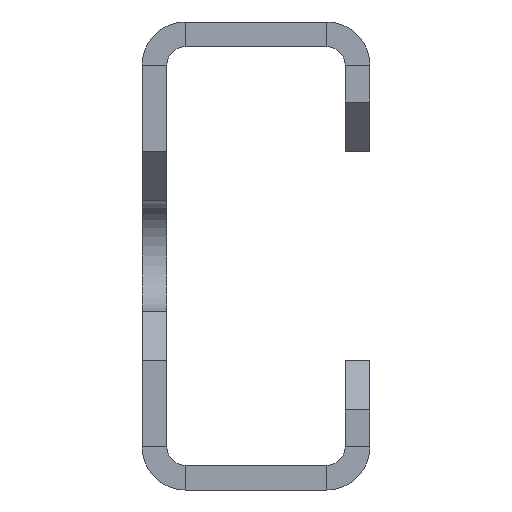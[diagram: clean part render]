
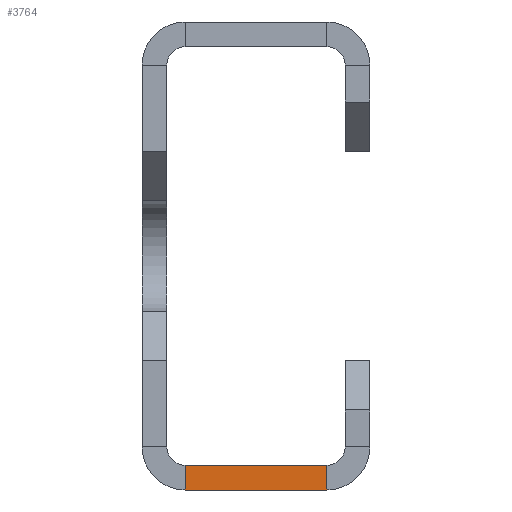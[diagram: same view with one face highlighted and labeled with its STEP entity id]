
A CAD part, front view. The second image highlights one B-rep face of the part: STEP entity #3764.
In plain terms, the highlighted planar face has unit normal (0, -1, 0).
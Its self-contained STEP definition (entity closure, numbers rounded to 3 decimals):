
#227 = PLANE ( 'NONE',  #3957 ) ;
#228 = CARTESIAN_POINT ( 'NONE',  ( 16.5, -582.25, -15.5 ) ) ;
#229 = DIRECTION ( 'NONE',  ( 0., -1., 0. ) ) ;
#230 = DIRECTION ( 'NONE',  ( 0., 0., -1. ) ) ;
#495 = LINE ( 'NONE', #496, #2308 ) ;
#496 = CARTESIAN_POINT ( 'NONE',  ( 0., -582.25, -17. ) ) ;
#499 = DIRECTION ( 'NONE',  ( -1., 0., 0. ) ) ;
#500 = LINE ( 'NONE', #506, #2309 ) ;
#506 = CARTESIAN_POINT ( 'NONE',  ( 0., -582.25, -19. ) ) ;
#510 = DIRECTION ( 'NONE',  ( -1., 0., 0. ) ) ;
#524 = LINE ( 'NONE', #527, #2313 ) ;
#527 = CARTESIAN_POINT ( 'NONE',  ( 15., -582.25, -19. ) ) ;
#528 = DIRECTION ( 'NONE',  ( 0., 0., 1. ) ) ;
#843 = LINE ( 'NONE', #845, #2307 ) ;
#845 = CARTESIAN_POINT ( 'NONE',  ( 3.5, -582.25, -17. ) ) ;
#846 = DIRECTION ( 'NONE',  ( 0., 0., -1. ) ) ;
#1319 = EDGE_LOOP ( 'NONE', ( #1371, #1369, #1370, #1367 ) ) ;
#1367 = ORIENTED_EDGE ( 'NONE', *, *, #3556, .T. ) ;
#1369 = ORIENTED_EDGE ( 'NONE', *, *, #3561, .T. ) ;
#1370 = ORIENTED_EDGE ( 'NONE', *, *, #3557, .T. ) ;
#1371 = ORIENTED_EDGE ( 'NONE', *, *, #3558, .F. ) ;
#1755 = VERTEX_POINT ( 'NONE', #4394 ) ;
#1759 = VERTEX_POINT ( 'NONE', #4390 ) ;
#2307 = VECTOR ( 'NONE', #846, 1000. ) ;
#2308 = VECTOR ( 'NONE', #499, 1000. ) ;
#2309 = VECTOR ( 'NONE', #510, 1000. ) ;
#2313 = VECTOR ( 'NONE', #528, 1000. ) ;
#2549 = VERTEX_POINT ( 'NONE', #4187 ) ;
#2550 = VERTEX_POINT ( 'NONE', #4186 ) ;
#3556 = EDGE_CURVE ( 'NONE', #2549, #1759, #843, .T. ) ;
#3557 = EDGE_CURVE ( 'NONE', #2550, #2549, #495, .T. ) ;
#3558 = EDGE_CURVE ( 'NONE', #1755, #1759, #500, .T. ) ;
#3561 = EDGE_CURVE ( 'NONE', #1755, #2550, #524, .T. ) ;
#3764 = ADVANCED_FACE ( 'NONE', ( #3897 ), #227, .T. ) ;
#3897 = FACE_OUTER_BOUND ( 'NONE', #1319, .T. ) ;
#3957 = AXIS2_PLACEMENT_3D ( 'NONE', #228, #229, #230 ) ;
#4186 = CARTESIAN_POINT ( 'NONE',  ( 15., -582.25, -17. ) ) ;
#4187 = CARTESIAN_POINT ( 'NONE',  ( 3.5, -582.25, -17. ) ) ;
#4390 = CARTESIAN_POINT ( 'NONE',  ( 3.5, -582.25, -19. ) ) ;
#4394 = CARTESIAN_POINT ( 'NONE',  ( 15., -582.25, -19. ) ) ;
